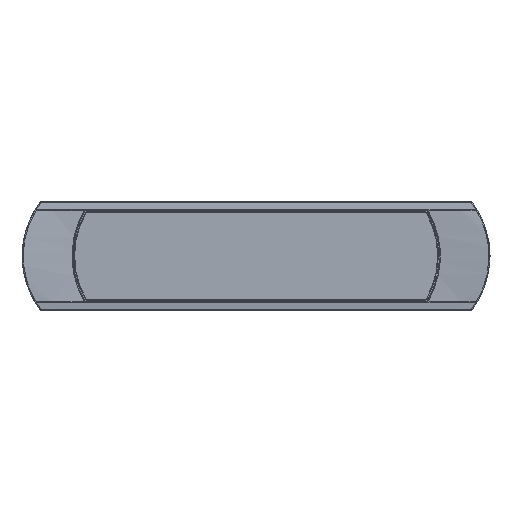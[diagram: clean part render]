
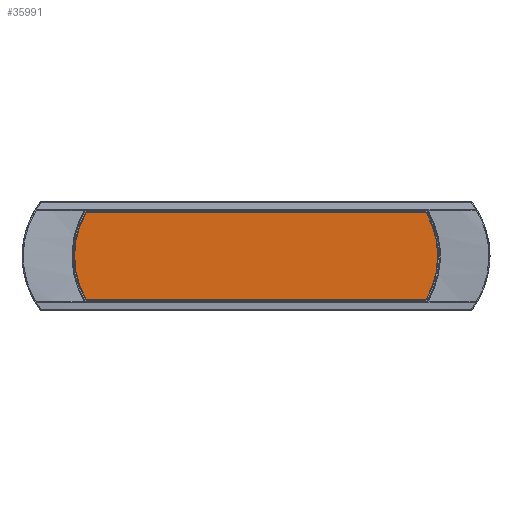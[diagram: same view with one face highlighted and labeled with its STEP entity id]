
A CAD part, top view. The second image highlights one B-rep face of the part: STEP entity #35991.
In plain terms, the highlighted planar face has unit normal (0, 0, 1) as drawn and (0, 1, 0) by its records, which use the part's own axes.
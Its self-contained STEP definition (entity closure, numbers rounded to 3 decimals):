
#115 = DIRECTION ( 'NONE',  ( 0., 1., 0. ) ) ;
#2464 = FACE_OUTER_BOUND ( 'NONE', #29809, .T. ) ;
#3355 = CARTESIAN_POINT ( 'NONE',  ( -66.352, 21.1, 16.9 ) ) ;
#3598 = VECTOR ( 'NONE', #56475, 1000. ) ;
#4103 =( BOUNDED_CURVE ( )  B_SPLINE_CURVE ( 3, ( #16641, #55468, #30024, #62057 ),
 .UNSPECIFIED., .F., .F. ) 
 B_SPLINE_CURVE_WITH_KNOTS ( ( 4, 4 ),
 ( 2.62, 3.663 ),
 .UNSPECIFIED. ) 
 CURVE ( )  GEOMETRIC_REPRESENTATION_ITEM ( )  RATIONAL_B_SPLINE_CURVE ( ( 1., 0.911, 0.911, 1. ) ) 
 REPRESENTATION_ITEM ( '' )  );
#8558 = VERTEX_POINT ( 'NONE', #39058 ) ;
#12725 = CARTESIAN_POINT ( 'NONE',  ( 36.85, 21.1, 0. ) ) ;
#12849 = ORIENTED_EDGE ( 'NONE', *, *, #44315, .T. ) ;
#13556 = VECTOR ( 'NONE', #65077, 1000. ) ;
#14237 = PLANE ( 'NONE',  #35131 ) ;
#14522 = DIRECTION ( 'NONE',  ( 0., 1., 0. ) ) ;
#16641 = CARTESIAN_POINT ( 'NONE',  ( -66.18, 21.1, -17. ) ) ;
#17602 = CARTESIAN_POINT ( 'NONE',  ( 66.352, 21.1, 16.9 ) ) ;
#17635 =( BOUNDED_CURVE ( )  B_SPLINE_CURVE ( 3, ( #55601, #49292, #42420, #23037 ),
 .UNSPECIFIED., .F., .F. ) 
 B_SPLINE_CURVE_WITH_KNOTS ( ( 4, 4 ),
 ( 2.616, 3.663 ),
 .UNSPECIFIED. ) 
 CURVE ( )  GEOMETRIC_REPRESENTATION_ITEM ( )  RATIONAL_B_SPLINE_CURVE ( ( 1., 0.911, 0.911, 1. ) ) 
 REPRESENTATION_ITEM ( '' )  );
#18559 = ORIENTED_EDGE ( 'NONE', *, *, #46138, .T. ) ;
#22374 = VERTEX_POINT ( 'NONE', #22973 ) ;
#22825 =( BOUNDED_CURVE ( )  B_SPLINE_CURVE ( 3, ( #26969, #33526, #46970, #78602 ),
 .UNSPECIFIED., .F., .F. ) 
 B_SPLINE_CURVE_WITH_KNOTS ( ( 4, 4 ),
 ( 2.62, 3.663 ),
 .UNSPECIFIED. ) 
 CURVE ( )  GEOMETRIC_REPRESENTATION_ITEM ( )  RATIONAL_B_SPLINE_CURVE ( ( 1., 0.911, 0.911, 1. ) ) 
 REPRESENTATION_ITEM ( '' )  );
#22973 = CARTESIAN_POINT ( 'NONE',  ( -66.18, 21.1, -17. ) ) ;
#23037 = CARTESIAN_POINT ( 'NONE',  ( 66.18, 21.1, -17. ) ) ;
#23341 = EDGE_CURVE ( 'NONE', #68937, #57246, #17635, .T. ) ;
#24155 = VERTEX_POINT ( 'NONE', #60606 ) ;
#26370 = DIRECTION ( 'NONE',  ( 0., 0., 1. ) ) ;
#26505 = VERTEX_POINT ( 'NONE', #17602 ) ;
#26532 = ORIENTED_EDGE ( 'NONE', *, *, #49168, .T. ) ;
#26969 = CARTESIAN_POINT ( 'NONE',  ( 66.18, 21.1, 17. ) ) ;
#29809 = EDGE_LOOP ( 'NONE', ( #26532, #12849, #83275, #35236, #79802, #18559, #83288, #74029 ) ) ;
#30024 = CARTESIAN_POINT ( 'NONE',  ( -66.316, 21.1, -16.963 ) ) ;
#33526 = CARTESIAN_POINT ( 'NONE',  ( 66.253, 21.1, 17. ) ) ;
#35131 = AXIS2_PLACEMENT_3D ( 'NONE', #79518, #14522, #66192 ) ;
#35236 = ORIENTED_EDGE ( 'NONE', *, *, #23341, .T. ) ;
#35991 = ADVANCED_FACE ( 'NONE', ( #2464 ), #14237, .T. ) ;
#36955 = CIRCLE ( 'NONE', #73606, 34. ) ;
#39058 = CARTESIAN_POINT ( 'NONE',  ( -66.18, 21.1, 17. ) ) ;
#42345 = LINE ( 'NONE', #49891, #3598 ) ;
#42420 = CARTESIAN_POINT ( 'NONE',  ( 66.253, 21.1, -17. ) ) ;
#44315 = EDGE_CURVE ( 'NONE', #48341, #26505, #22825, .T. ) ;
#45776 = DIRECTION ( 'NONE',  ( 0., 0., 1. ) ) ;
#46138 = EDGE_CURVE ( 'NONE', #22374, #24155, #4103, .T. ) ;
#46970 = CARTESIAN_POINT ( 'NONE',  ( 66.316, 21.1, 16.963 ) ) ;
#48341 = VERTEX_POINT ( 'NONE', #72567 ) ;
#48678 = VERTEX_POINT ( 'NONE', #77079 ) ;
#49168 = EDGE_CURVE ( 'NONE', #8558, #48341, #59536, .T. ) ;
#49292 = CARTESIAN_POINT ( 'NONE',  ( 66.316, 21.1, -16.963 ) ) ;
#49876 = CARTESIAN_POINT ( 'NONE',  ( 66.18, 21.1, -17. ) ) ;
#49891 = CARTESIAN_POINT ( 'NONE',  ( 0., 21.1, -17. ) ) ;
#51296 = EDGE_CURVE ( 'NONE', #48678, #8558, #67520, .T. ) ;
#51473 = EDGE_CURVE ( 'NONE', #26505, #68937, #68272, .T. ) ;
#52095 = CARTESIAN_POINT ( 'NONE',  ( 66.353, 21.1, -16.899 ) ) ;
#55468 = CARTESIAN_POINT ( 'NONE',  ( -66.253, 21.1, -17. ) ) ;
#55601 = CARTESIAN_POINT ( 'NONE',  ( 66.353, 21.1, -16.899 ) ) ;
#56475 = DIRECTION ( 'NONE',  ( -1., 0., 0. ) ) ;
#57246 = VERTEX_POINT ( 'NONE', #49876 ) ;
#58380 = DIRECTION ( 'NONE',  ( 0., 1., 0. ) ) ;
#59536 = LINE ( 'NONE', #83846, #13556 ) ;
#60606 = CARTESIAN_POINT ( 'NONE',  ( -66.352, 21.1, -16.9 ) ) ;
#62057 = CARTESIAN_POINT ( 'NONE',  ( -66.352, 21.1, -16.9 ) ) ;
#65077 = DIRECTION ( 'NONE',  ( 1., 0., 0. ) ) ;
#66192 = DIRECTION ( 'NONE',  ( 0., 0., 1. ) ) ;
#67520 =( BOUNDED_CURVE ( )  B_SPLINE_CURVE ( 3, ( #3355, #75776, #68690, #75498 ),
 .UNSPECIFIED., .F., .F. ) 
 B_SPLINE_CURVE_WITH_KNOTS ( ( 4, 4 ),
 ( 2.62, 3.663 ),
 .UNSPECIFIED. ) 
 CURVE ( )  GEOMETRIC_REPRESENTATION_ITEM ( )  RATIONAL_B_SPLINE_CURVE ( ( 1., 0.911, 0.911, 1. ) ) 
 REPRESENTATION_ITEM ( '' )  );
#68272 = CIRCLE ( 'NONE', #71567, 34. ) ;
#68690 = CARTESIAN_POINT ( 'NONE',  ( -66.253, 21.1, 17. ) ) ;
#68937 = VERTEX_POINT ( 'NONE', #52095 ) ;
#71567 = AXIS2_PLACEMENT_3D ( 'NONE', #12725, #58380, #26370 ) ;
#72567 = CARTESIAN_POINT ( 'NONE',  ( 66.18, 21.1, 17. ) ) ;
#73606 = AXIS2_PLACEMENT_3D ( 'NONE', #78267, #115, #45776 ) ;
#74029 = ORIENTED_EDGE ( 'NONE', *, *, #51296, .T. ) ;
#75498 = CARTESIAN_POINT ( 'NONE',  ( -66.18, 21.1, 17. ) ) ;
#75776 = CARTESIAN_POINT ( 'NONE',  ( -66.316, 21.1, 16.963 ) ) ;
#77079 = CARTESIAN_POINT ( 'NONE',  ( -66.352, 21.1, 16.9 ) ) ;
#78267 = CARTESIAN_POINT ( 'NONE',  ( -36.85, 21.1, 0. ) ) ;
#78602 = CARTESIAN_POINT ( 'NONE',  ( 66.352, 21.1, 16.9 ) ) ;
#79518 = CARTESIAN_POINT ( 'NONE',  ( 0., 21.1, 0. ) ) ;
#79802 = ORIENTED_EDGE ( 'NONE', *, *, #80492, .T. ) ;
#80492 = EDGE_CURVE ( 'NONE', #57246, #22374, #42345, .T. ) ;
#81569 = EDGE_CURVE ( 'NONE', #24155, #48678, #36955, .T. ) ;
#83275 = ORIENTED_EDGE ( 'NONE', *, *, #51473, .T. ) ;
#83288 = ORIENTED_EDGE ( 'NONE', *, *, #81569, .T. ) ;
#83846 = CARTESIAN_POINT ( 'NONE',  ( 0., 21.1, 17. ) ) ;
